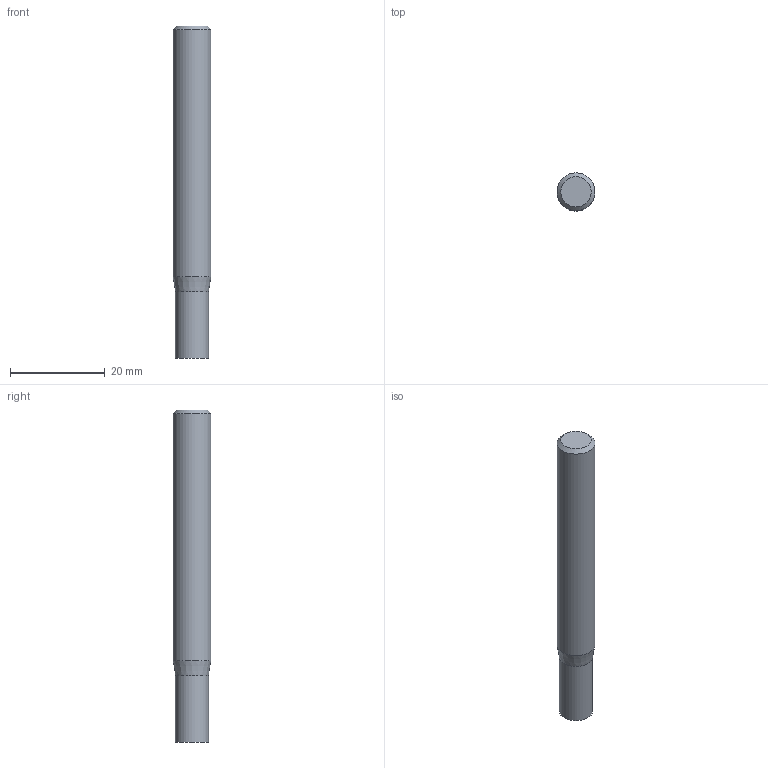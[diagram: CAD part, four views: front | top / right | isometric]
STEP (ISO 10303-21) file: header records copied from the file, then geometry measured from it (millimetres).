
FILE_DESCRIPTION((''),'2;1');
FILE_NAME('C:\Users\nsx150\AppData\Local\Temp\Mastercam 2021\QTW1OOEEGF\TEMP.step','2021-04-08T10:37:00',(''),(''),'STEP Write','Mastercam 2021 ... CNC Software, Inc.','');
FILE_SCHEMA(('AUTOMOTIVE_DESIGN'));
Length unit declared in the file: millimetre
Products named in the file (1): None
Bounding box: 8 x 8 x 70 mm (x, y, z)
Volume: 3327.1 mm3; surface area: 1864.4 mm2
Topology: 2 solids, 2 shells, 8 faces, 10 edges, 6 vertices
Faces by surface type: plane 4, cylinder 2, cone 2
Full cylindrical faces by diameter (mm): 7 x1, 8 x1
Entity records: 190 total; most frequent: DIRECTION 32, CARTESIAN_POINT 22, AXIS2_PLACEMENT_3D 16, ORIENTED_EDGE 12, EDGE_LOOP 12, STYLED_ITEM 11, ADVANCED_FACE 8, VERTEX_POINT 6
